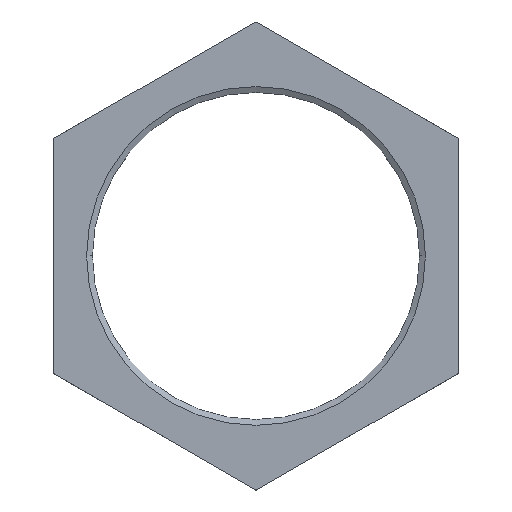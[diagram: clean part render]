
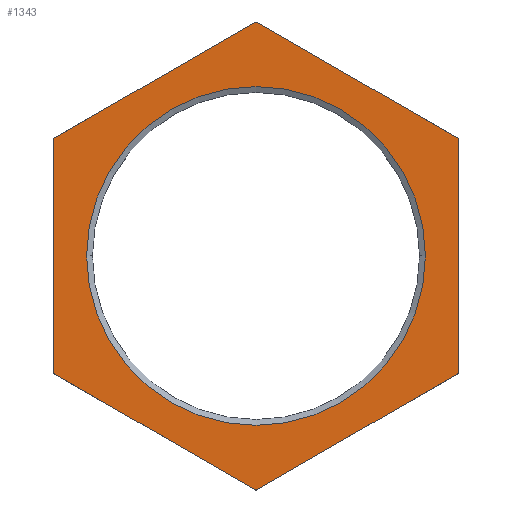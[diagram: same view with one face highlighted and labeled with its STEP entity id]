
A CAD part, top view. The second image highlights one B-rep face of the part: STEP entity #1343.
In plain terms, the highlighted planar face has unit normal (0, 0, 1).
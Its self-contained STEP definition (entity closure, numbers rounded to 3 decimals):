
#487 = AXIS2_PLACEMENT_3D ( 'NONE', #509, #505, #504 ) ;
#499 = CIRCLE ( 'NONE', #487, 34.6 ) ;
#504 = DIRECTION ( 'NONE',  ( 1., 0., 0. ) ) ;
#505 = DIRECTION ( 'NONE',  ( 0., 0., 1. ) ) ;
#509 = CARTESIAN_POINT ( 'NONE',  ( 0., 0., 0. ) ) ;
#762 = AXIS2_PLACEMENT_3D ( 'NONE', #843, #774, #773 ) ;
#763 = CIRCLE ( 'NONE', #762, 25.05 ) ;
#772 = CARTESIAN_POINT ( 'NONE',  ( 25.05, 0., 0. ) ) ;
#773 = DIRECTION ( 'NONE',  ( 1., 0., 0. ) ) ;
#774 = DIRECTION ( 'NONE',  ( 0., 0., 1. ) ) ;
#829 = CARTESIAN_POINT ( 'NONE',  ( 30., -17.238, 0. ) ) ;
#843 = CARTESIAN_POINT ( 'NONE',  ( 0., 0., 0. ) ) ;
#853 = CARTESIAN_POINT ( 'NONE',  ( -25.05, 0., 0. ) ) ;
#985 = DIRECTION ( 'NONE',  ( -0.866, 0.5, 0. ) ) ;
#986 = VECTOR ( 'NONE', #985, 1000. ) ;
#987 = CARTESIAN_POINT ( 'NONE',  ( 30., 17.321, 0. ) ) ;
#989 = DIRECTION ( 'NONE',  ( 1., 0., 0. ) ) ;
#990 = DIRECTION ( 'NONE',  ( 0., 0., 1. ) ) ;
#991 = CARTESIAN_POINT ( 'NONE',  ( 0., 0., 0. ) ) ;
#992 = AXIS2_PLACEMENT_3D ( 'NONE', #991, #990, #989 ) ;
#993 = CARTESIAN_POINT ( 'NONE',  ( 30., 17.238, 0. ) ) ;
#994 = LINE ( 'NONE', #987, #986 ) ;
#996 = CIRCLE ( 'NONE', #992, 34.6 ) ;
#997 = CARTESIAN_POINT ( 'NONE',  ( -29.929, 17.362, 0. ) ) ;
#1015 = DIRECTION ( 'NONE',  ( 0., 1., 0. ) ) ;
#1016 = VECTOR ( 'NONE', #1015, 1000. ) ;
#1017 = CARTESIAN_POINT ( 'NONE',  ( 30., -17.321, 0. ) ) ;
#1018 = LINE ( 'NONE', #1017, #1016 ) ;
#1030 = CARTESIAN_POINT ( 'NONE',  ( 29.929, 17.362, 0. ) ) ;
#1057 = CARTESIAN_POINT ( 'NONE',  ( 0.071, 34.6, 0. ) ) ;
#1060 = DIRECTION ( 'NONE',  ( 0., 0., 1. ) ) ;
#1061 = DIRECTION ( 'NONE',  ( 1., 0., 0. ) ) ;
#1062 = AXIS2_PLACEMENT_3D ( 'NONE', #1063, #1060, #1061 ) ;
#1063 = CARTESIAN_POINT ( 'NONE',  ( 0., 0., 0. ) ) ;
#1064 = DIRECTION ( 'NONE',  ( -0.866, -0.5, 0. ) ) ;
#1065 = CIRCLE ( 'NONE', #1062, 25.05 ) ;
#1066 = VECTOR ( 'NONE', #1064, 1000. ) ;
#1067 = CARTESIAN_POINT ( 'NONE',  ( 0., 34.641, 0. ) ) ;
#1068 = LINE ( 'NONE', #1067, #1066 ) ;
#1077 = DIRECTION ( 'NONE',  ( 1., 0., 0. ) ) ;
#1078 = DIRECTION ( 'NONE',  ( 0., 0., 1. ) ) ;
#1079 = DIRECTION ( 'NONE',  ( 1., 0., 0. ) ) ;
#1080 = CARTESIAN_POINT ( 'NONE',  ( 0., 0., 0. ) ) ;
#1086 = AXIS2_PLACEMENT_3D ( 'NONE', #1080, #1095, #1079 ) ;
#1089 = CARTESIAN_POINT ( 'NONE',  ( -0.071, -34.6, 0. ) ) ;
#1094 = CIRCLE ( 'NONE', #1086, 34.6 ) ;
#1095 = DIRECTION ( 'NONE',  ( 0., 0., 1. ) ) ;
#1096 = CARTESIAN_POINT ( 'NONE',  ( 0., 0., 0. ) ) ;
#1097 = AXIS2_PLACEMENT_3D ( 'NONE', #1096, #1078, #1077 ) ;
#1098 = CIRCLE ( 'NONE', #1097, 34.6 ) ;
#1099 = DIRECTION ( 'NONE',  ( 1., 0., 0. ) ) ;
#1100 = CIRCLE ( 'NONE', #1102, 34.6 ) ;
#1101 = DIRECTION ( 'NONE',  ( 0., 0., 1. ) ) ;
#1102 = AXIS2_PLACEMENT_3D ( 'NONE', #1103, #1101, #1099 ) ;
#1103 = CARTESIAN_POINT ( 'NONE',  ( 0., 0., 0. ) ) ;
#1104 = CARTESIAN_POINT ( 'NONE',  ( 0.071, -34.6, 0. ) ) ;
#1110 = DIRECTION ( 'NONE',  ( 0.866, -0.5, 0. ) ) ;
#1111 = VECTOR ( 'NONE', #1110, 1000. ) ;
#1112 = CARTESIAN_POINT ( 'NONE',  ( -30., -17.321, 0. ) ) ;
#1113 = LINE ( 'NONE', #1112, #1111 ) ;
#1120 = VERTEX_POINT ( 'NONE', #829 ) ;
#1135 = VERTEX_POINT ( 'NONE', #853 ) ;
#1149 = EDGE_CURVE ( 'NONE', #1135, #1150, #763, .T. ) ;
#1150 = VERTEX_POINT ( 'NONE', #772 ) ;
#1216 = VERTEX_POINT ( 'NONE', #993 ) ;
#1218 = EDGE_CURVE ( 'NONE', #1120, #1216, #1018, .T. ) ;
#1219 = EDGE_LOOP ( 'NONE', ( #1222, #1221, #1249, #1266, #1292, #1298, #1283, #1276, #1305, #1268, #1252, #1253 ) ) ;
#1220 = VERTEX_POINT ( 'NONE', #1057 ) ;
#1221 = ORIENTED_EDGE ( 'NONE', *, *, #1296, .T. ) ;
#1222 = ORIENTED_EDGE ( 'NONE', *, *, #1226, .T. ) ;
#1223 = VERTEX_POINT ( 'NONE', #1030 ) ;
#1226 = EDGE_CURVE ( 'NONE', #1223, #1220, #994, .T. ) ;
#1249 = ORIENTED_EDGE ( 'NONE', *, *, #1263, .T. ) ;
#1252 = ORIENTED_EDGE ( 'NONE', *, *, #1218, .T. ) ;
#1253 = ORIENTED_EDGE ( 'NONE', *, *, #1254, .T. ) ;
#1254 = EDGE_CURVE ( 'NONE', #1216, #1223, #996, .T. ) ;
#1256 = VERTEX_POINT ( 'NONE', #997 ) ;
#1263 = EDGE_CURVE ( 'NONE', #1297, #1256, #1068, .T. ) ;
#1264 = EDGE_CURVE ( 'NONE', #1150, #1135, #1065, .T. ) ;
#1265 = ORIENTED_EDGE ( 'NONE', *, *, #1149, .F. ) ;
#1266 = ORIENTED_EDGE ( 'NONE', *, *, #1267, .T. ) ;
#1267 = EDGE_CURVE ( 'NONE', #1256, #1291, #499, .T. ) ;
#1268 = ORIENTED_EDGE ( 'NONE', *, *, #1269, .T. ) ;
#1269 = EDGE_CURVE ( 'NONE', #1338, #1120, #1094, .T. ) ;
#1271 = EDGE_CURVE ( 'NONE', #1295, #1293, #1098, .T. ) ;
#1275 = VERTEX_POINT ( 'NONE', #1089 ) ;
#1276 = ORIENTED_EDGE ( 'NONE', *, *, #1281, .T. ) ;
#1281 = EDGE_CURVE ( 'NONE', #1275, #1282, #1100, .T. ) ;
#1282 = VERTEX_POINT ( 'NONE', #1104 ) ;
#1283 = ORIENTED_EDGE ( 'NONE', *, *, #1284, .T. ) ;
#1284 = EDGE_CURVE ( 'NONE', #1293, #1275, #1113, .T. ) ;
#1291 = VERTEX_POINT ( 'NONE', #1873 ) ;
#1292 = ORIENTED_EDGE ( 'NONE', *, *, #1294, .T. ) ;
#1293 = VERTEX_POINT ( 'NONE', #1872 ) ;
#1294 = EDGE_CURVE ( 'NONE', #1291, #1295, #1871, .T. ) ;
#1295 = VERTEX_POINT ( 'NONE', #1867 ) ;
#1296 = EDGE_CURVE ( 'NONE', #1220, #1297, #1389, .T. ) ;
#1297 = VERTEX_POINT ( 'NONE', #1402 ) ;
#1298 = ORIENTED_EDGE ( 'NONE', *, *, #1271, .T. ) ;
#1305 = ORIENTED_EDGE ( 'NONE', *, *, #1306, .T. ) ;
#1306 = EDGE_CURVE ( 'NONE', #1282, #1338, #1423, .T. ) ;
#1338 = VERTEX_POINT ( 'NONE', #1432 ) ;
#1343 = ADVANCED_FACE ( 'NONE', ( #1439, #1480 ), #1479, .F. ) ;
#1344 = EDGE_LOOP ( 'NONE', ( #1375, #1265 ) ) ;
#1375 = ORIENTED_EDGE ( 'NONE', *, *, #1264, .F. ) ;
#1381 = DIRECTION ( 'NONE',  ( 0., 0., 1. ) ) ;
#1387 = AXIS2_PLACEMENT_3D ( 'NONE', #1403, #1381, #1388 ) ;
#1388 = DIRECTION ( 'NONE',  ( 1., 0., 0. ) ) ;
#1389 = CIRCLE ( 'NONE', #1387, 34.6 ) ;
#1402 = CARTESIAN_POINT ( 'NONE',  ( -0.071, 34.6, 0. ) ) ;
#1403 = CARTESIAN_POINT ( 'NONE',  ( 0., 0., 0. ) ) ;
#1420 = DIRECTION ( 'NONE',  ( 0.866, 0.5, 0. ) ) ;
#1421 = VECTOR ( 'NONE', #1420, 1000. ) ;
#1422 = CARTESIAN_POINT ( 'NONE',  ( 0., -34.641, 0. ) ) ;
#1423 = LINE ( 'NONE', #1422, #1421 ) ;
#1432 = CARTESIAN_POINT ( 'NONE',  ( 29.929, -17.362, 0. ) ) ;
#1439 = FACE_BOUND ( 'NONE', #1344, .T. ) ;
#1455 = DIRECTION ( 'NONE',  ( -1., 0., 0. ) ) ;
#1456 = DIRECTION ( 'NONE',  ( 0., 0., -1. ) ) ;
#1457 = CARTESIAN_POINT ( 'NONE',  ( 0., 34.6, 0. ) ) ;
#1477 = AXIS2_PLACEMENT_3D ( 'NONE', #1457, #1456, #1455 ) ;
#1479 = PLANE ( 'NONE',  #1477 ) ;
#1480 = FACE_OUTER_BOUND ( 'NONE', #1219, .T. ) ;
#1867 = CARTESIAN_POINT ( 'NONE',  ( -30., -17.238, 0. ) ) ;
#1868 = DIRECTION ( 'NONE',  ( 0., -1., 0. ) ) ;
#1869 = VECTOR ( 'NONE', #1868, 1000. ) ;
#1870 = CARTESIAN_POINT ( 'NONE',  ( -30., 17.321, 0. ) ) ;
#1871 = LINE ( 'NONE', #1870, #1869 ) ;
#1872 = CARTESIAN_POINT ( 'NONE',  ( -29.929, -17.362, 0. ) ) ;
#1873 = CARTESIAN_POINT ( 'NONE',  ( -30., 17.238, 0. ) ) ;
